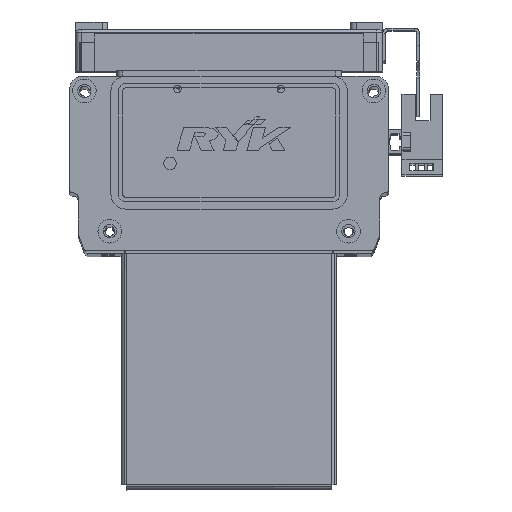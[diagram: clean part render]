
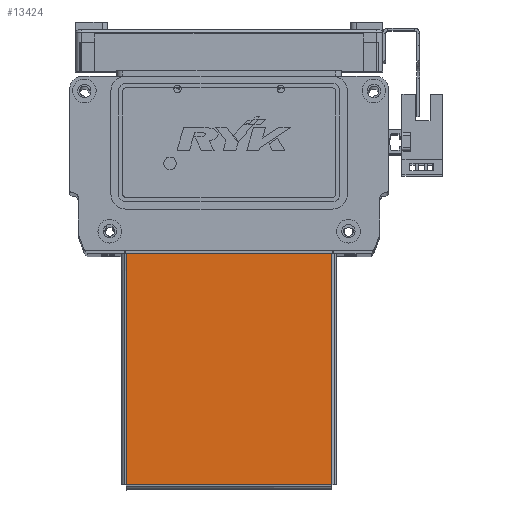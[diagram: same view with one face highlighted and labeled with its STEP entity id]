
A CAD part, top view. The second image highlights one B-rep face of the part: STEP entity #13424.
In plain terms, the highlighted planar face has unit normal (0, 0, 1) as drawn and (0, 1, 0) by its records, which use the part's own axes.
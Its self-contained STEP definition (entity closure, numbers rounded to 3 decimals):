
#13424 = ADVANCED_FACE ( 'NONE', ( #28963 ), #39326, .T. ) ;
#25263 = AXIS2_PLACEMENT_3D ( 'NONE', #39378, #39383, #39330 ) ;
#28963 = FACE_OUTER_BOUND ( 'NONE', #50055, .T. ) ;
#31752 = VECTOR ( 'NONE', #35531, 1000. ) ;
#31790 = LINE ( 'NONE', #35409, #31752 ) ;
#31818 = VECTOR ( 'NONE', #35734, 1000. ) ;
#31823 = LINE ( 'NONE', #35750, #31818 ) ;
#31865 = LINE ( 'NONE', #35961, #31878 ) ;
#31875 = LINE ( 'NONE', #35927, #31905 ) ;
#31878 = VECTOR ( 'NONE', #35978, 1000. ) ;
#31905 = VECTOR ( 'NONE', #35881, 1000. ) ;
#35268 = VERTEX_POINT ( 'NONE', #47777 ) ;
#35278 = VERTEX_POINT ( 'NONE', #47757 ) ;
#35313 = VERTEX_POINT ( 'NONE', #47771 ) ;
#35331 = VERTEX_POINT ( 'NONE', #47766 ) ;
#35409 = CARTESIAN_POINT ( 'NONE',  ( -35.5, 0., -39.5 ) ) ;
#35531 = DIRECTION ( 'NONE',  ( -1., 0., 0. ) ) ;
#35734 = DIRECTION ( 'NONE',  ( 0., 0., -1. ) ) ;
#35750 = CARTESIAN_POINT ( 'NONE',  ( 34.763, 0., 38.793 ) ) ;
#35881 = DIRECTION ( 'NONE',  ( 1., 0., 0. ) ) ;
#35927 = CARTESIAN_POINT ( 'NONE',  ( -34.793, 0., 38.763 ) ) ;
#35961 = CARTESIAN_POINT ( 'NONE',  ( -34.763, 0., -39.5 ) ) ;
#35978 = DIRECTION ( 'NONE',  ( 0., 0., 1. ) ) ;
#39326 = PLANE ( 'NONE',  #25263 ) ;
#39330 = DIRECTION ( 'NONE',  ( 0., 0., 1. ) ) ;
#39378 = CARTESIAN_POINT ( 'NONE',  ( 0., 0., 0. ) ) ;
#39383 = DIRECTION ( 'NONE',  ( 0., 1., 0. ) ) ;
#43031 = EDGE_CURVE ( 'NONE', #35331, #35313, #31790, .T. ) ;
#43078 = EDGE_CURVE ( 'NONE', #35278, #35331, #31823, .T. ) ;
#43108 = EDGE_CURVE ( 'NONE', #35268, #35278, #31875, .T. ) ;
#43113 = EDGE_CURVE ( 'NONE', #35313, #35268, #31865, .T. ) ;
#47757 = CARTESIAN_POINT ( 'NONE',  ( 34.763, 0., 38.763 ) ) ;
#47766 = CARTESIAN_POINT ( 'NONE',  ( 34.763, 0., -39.5 ) ) ;
#47771 = CARTESIAN_POINT ( 'NONE',  ( -34.763, 0., -39.5 ) ) ;
#47777 = CARTESIAN_POINT ( 'NONE',  ( -34.763, 0., 38.763 ) ) ;
#50055 = EDGE_LOOP ( 'NONE', ( #55164, #55128, #55149, #55170 ) ) ;
#55128 = ORIENTED_EDGE ( 'NONE', *, *, #43108, .T. ) ;
#55149 = ORIENTED_EDGE ( 'NONE', *, *, #43078, .T. ) ;
#55164 = ORIENTED_EDGE ( 'NONE', *, *, #43113, .T. ) ;
#55170 = ORIENTED_EDGE ( 'NONE', *, *, #43031, .T. ) ;
